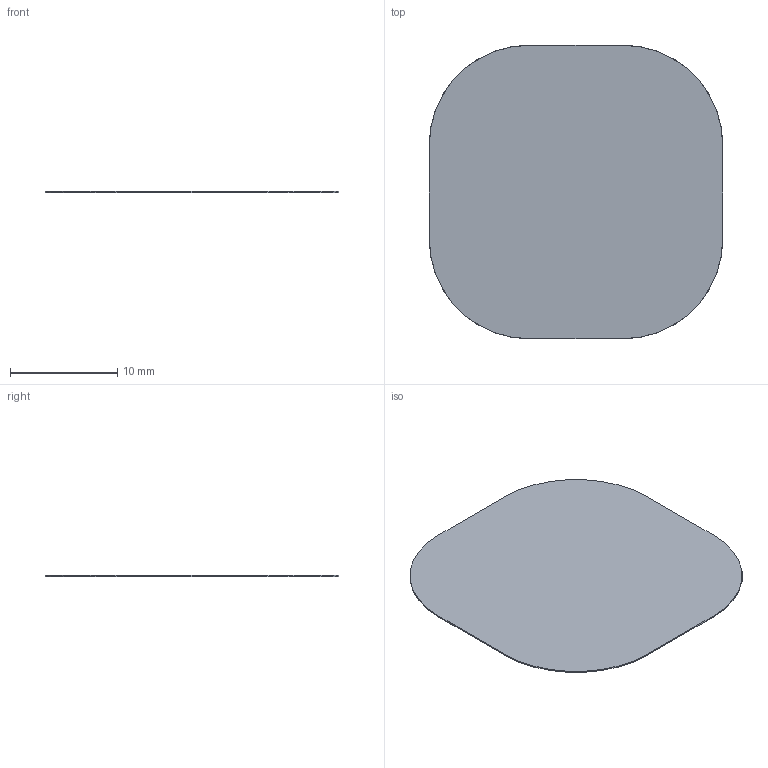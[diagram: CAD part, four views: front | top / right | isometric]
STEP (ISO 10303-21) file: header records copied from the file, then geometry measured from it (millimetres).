
FILE_DESCRIPTION(('Open CASCADE Model'),'2;1');
FILE_NAME('C27_UC1_11_Front_Action_Bond_Film','2026-09-09T20:28:15',( 'Author'),('Open CASCADE'),'Open CASCADE STEP processor 7.9', 'build123d','Unknown');
FILE_SCHEMA(('AUTOMOTIVE_DESIGN { 1 0 10303 214 1 1 1 1 }'));
Length unit declared in the file: millimetre
Products named in the file (2): C27_UC1_11_Front_Action_Bond_Film
Assembly tree (1 placements, depth 2):
  C27_UC1_11_Front_Action_Bond_Film
    C27_UC1_11_Front_Action_Bond_Film
Bounding box: 27.38 x 27.38 x 0.1 mm (x, y, z)
Volume: 67.5 mm3; surface area: 1359.5 mm2
Topology: 1 solids, 1 shells, 10 faces, 24 edges, 16 vertices
Faces by surface type: cylinder 4, torus 4, plane 2
Entity records: 660 total; most frequent: CARTESIAN_POINT 156, DIRECTION 96, ORIENTED_EDGE 48, PCURVE 48, DEFINITIONAL_REPRESENTATION 48, LINE 40, VECTOR 40, AXIS2_PLACEMENT_3D 28
